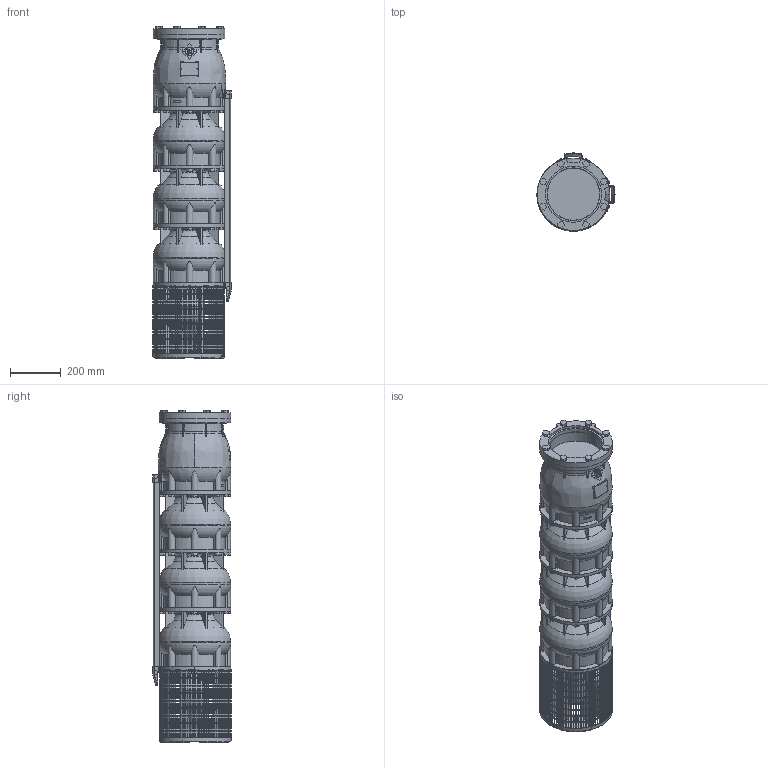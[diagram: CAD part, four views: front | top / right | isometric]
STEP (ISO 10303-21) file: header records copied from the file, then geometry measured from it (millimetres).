
FILE_DESCRIPTION(/* description */ ('-'),/* implementation_level */ '2;1');
FILE_NAME(/* name */ 'VSI454-3-2D_WF_M8-50_SLE',/* time_stamp */ '2026-01-21T14:34:24+01:00',/* author */ ('Simonelli M.'),/* organization */ ('Franklin Electric Srl'),/* preprocessor_version */ 'ST-DEVELOPER v18.102',/* originating_system */ 'Solid Edge',/* authorisation */ 'Unknown');
FILE_SCHEMA (('AUTOMOTIVE_DESIGN {1 0 10303 214 3 1 1}'));
Products named in the file (12): VSI454-3-2D_WF_M8-50_SLE; VSI344-454_testata; VSI344-454_supporto; VSI344-454_filtro_A; VSI344-454_filtro_B; VSI344-454_terminale_top_copricavo_basso; VSI344-454_terminale_bottom_copricavo_basso; LOW 454-3; VSI454_diffusore; M5X8_UNI7687; VSI184-254_giunto_10×8; VSI344-454_flangia_testata
Assembly tree (27 placements, depth 2):
  VSI454-3-2D_WF_M8-50_SLE
    VSI344-454_testata
    VSI344-454_supporto
    VSI344-454_filtro_A
    VSI344-454_filtro_B
    VSI344-454_terminale_top_copricavo_basso  x2
    VSI344-454_terminale_bottom_copricavo_basso  x2
    LOW 454-3  x2
    VSI454_diffusore  x3
    M5X8_UNI7687  x12
    VSI184-254_giunto_10×8
    VSI344-454_flangia_testata
Bounding box: 306.94 x 306.94 x 1305 mm (x, y, z)
Volume: 52219170.9 mm3; surface area: 3007577.6 mm2
Topology: 92 solids, 92 shells, 4392 faces, 12355 edges, 8205 vertices
Faces by surface type: plane 3510, cylinder 549, torus 217, cone 89, bspline 15, sphere 12
Full cylindrical faces by diameter (mm): 5 x12, 16 x8, 35 x1, 65 x1, 69 x1, 150 x1, 207 x1, 220.5 x1, 284.507 x3, 285 x3
Entity records: 127630 total; most frequent: CARTESIAN_POINT 28633, ORIENTED_EDGE 20792, DIRECTION 19902, EDGE_CURVE 10396, VERTEX_POINT 6933, AXIS2_PLACEMENT_3D 6722, LINE 6458, VECTOR 6458
